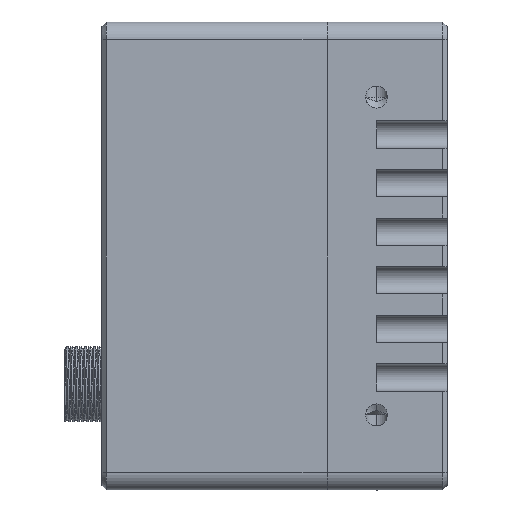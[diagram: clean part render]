
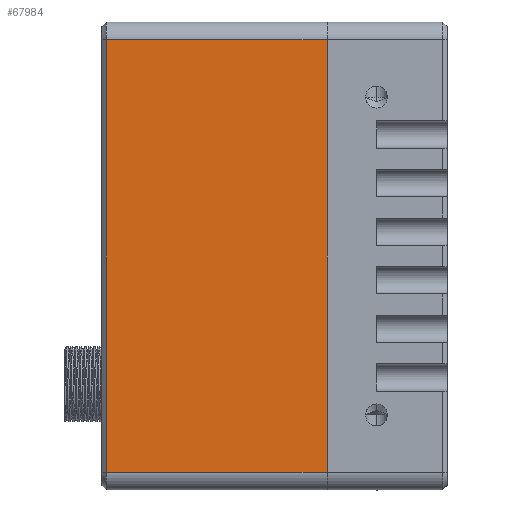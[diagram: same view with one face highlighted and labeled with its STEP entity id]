
A CAD part, left-side view. The second image highlights one B-rep face of the part: STEP entity #67984.
In plain terms, the highlighted planar face has unit normal (-1, 0, 0) as drawn and (1, 0, 0) by its records, which use the part's own axes.
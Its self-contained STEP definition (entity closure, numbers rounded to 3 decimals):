
#2684 = CARTESIAN_POINT ( 'NONE',  ( 26.5, 25.5, 24.5 ) ) ;
#5975 = CARTESIAN_POINT ( 'NONE',  ( 26.5, 25.5, -26.5 ) ) ;
#7611 = CARTESIAN_POINT ( 'NONE',  ( 26.5, 0.5, 24.5 ) ) ;
#20967 = ORIENTED_EDGE ( 'NONE', *, *, #65388, .T. ) ;
#28920 = DIRECTION ( 'NONE',  ( -1., 0., 0. ) ) ;
#31055 = VERTEX_POINT ( 'NONE', #35225 ) ;
#35033 = EDGE_CURVE ( 'NONE', #56865, #31055, #76442, .T. ) ;
#35225 = CARTESIAN_POINT ( 'NONE',  ( 26.5, 25.5, -24.5 ) ) ;
#36855 = LINE ( 'NONE', #117236, #129413 ) ;
#37923 = DIRECTION ( 'NONE',  ( 0., -1., 0. ) ) ;
#40414 = FACE_OUTER_BOUND ( 'NONE', #82285, .T. ) ;
#41177 = DIRECTION ( 'NONE',  ( 0., 0., 1. ) ) ;
#49734 = DIRECTION ( 'NONE',  ( 0., 0., -1. ) ) ;
#51333 = CARTESIAN_POINT ( 'NONE',  ( 26.5, 0.5, -24.5 ) ) ;
#56865 = VERTEX_POINT ( 'NONE', #121270 ) ;
#58198 = ORIENTED_EDGE ( 'NONE', *, *, #140338, .T. ) ;
#61653 = LINE ( 'NONE', #2684, #139002 ) ;
#65388 = EDGE_CURVE ( 'NONE', #110045, #31055, #36855, .T. ) ;
#65635 = PLANE ( 'NONE',  #73787 ) ;
#67984 = ADVANCED_FACE ( 'NONE', ( #40414 ), #65635, .F. ) ;
#73787 = AXIS2_PLACEMENT_3D ( 'NONE', #87110, #28920, #41177 ) ;
#76442 = LINE ( 'NONE', #5975, #129508 ) ;
#78483 = VECTOR ( 'NONE', #49734, 1000. ) ;
#82285 = EDGE_LOOP ( 'NONE', ( #125785, #58198, #20967, #148209 ) ) ;
#86366 = EDGE_CURVE ( 'NONE', #56865, #116686, #61653, .T. ) ;
#87110 = CARTESIAN_POINT ( 'NONE',  ( 26.5, 25.5, -26.5 ) ) ;
#94299 = DIRECTION ( 'NONE',  ( 0., 1., 0. ) ) ;
#94955 = LINE ( 'NONE', #143948, #78483 ) ;
#109366 = DIRECTION ( 'NONE',  ( 0., 0., -1. ) ) ;
#110045 = VERTEX_POINT ( 'NONE', #51333 ) ;
#116686 = VERTEX_POINT ( 'NONE', #7611 ) ;
#117236 = CARTESIAN_POINT ( 'NONE',  ( 26.5, 25.5, -24.5 ) ) ;
#121270 = CARTESIAN_POINT ( 'NONE',  ( 26.5, 25.5, 24.5 ) ) ;
#125785 = ORIENTED_EDGE ( 'NONE', *, *, #86366, .T. ) ;
#129413 = VECTOR ( 'NONE', #94299, 1000. ) ;
#129508 = VECTOR ( 'NONE', #109366, 1000. ) ;
#139002 = VECTOR ( 'NONE', #37923, 1000. ) ;
#140338 = EDGE_CURVE ( 'NONE', #116686, #110045, #94955, .T. ) ;
#143948 = CARTESIAN_POINT ( 'NONE',  ( 26.5, 0.5, -26.5 ) ) ;
#148209 = ORIENTED_EDGE ( 'NONE', *, *, #35033, .F. ) ;
